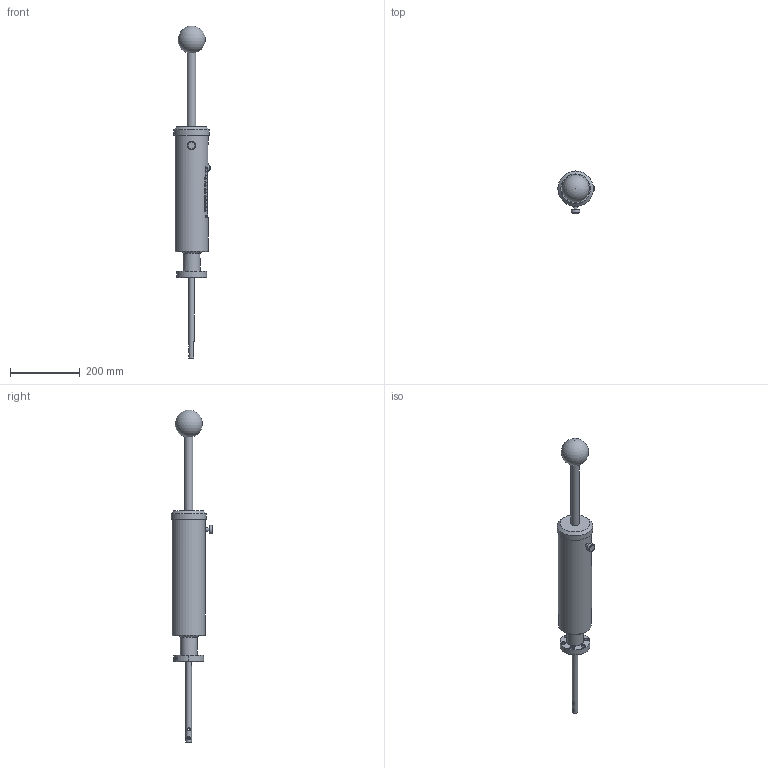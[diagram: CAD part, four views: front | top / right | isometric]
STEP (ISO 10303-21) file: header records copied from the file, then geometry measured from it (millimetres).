
FILE_DESCRIPTION(/* description */ ('Alibre Inc.'),/* implementation_level */ '2;1');
FILE_NAME(/* name */ 'export0',/* time_stamp */ '2016-03-24T13:18:55-07:00',/* author */ (''),/* organization */ (''),/* preprocessor_version */ 'ST-DEVELOPER v14',/* originating_system */ 'Alibre',/* authorisation */ '');
FILE_SCHEMA (('CONFIG_CONTROL_DESIGN'));
Length unit declared in the file: centimetre
Products named in the file (1): ID_1
Bounding box: 103.97 x 120.48 x 953.03 mm (x, y, z)
Volume: 3138709.2 mm3; surface area: 206069.7 mm2
Topology: 1 solids, 1 shells, 1870 faces, 5198 edges, 3450 vertices
Faces by surface type: plane 1060, bspline 641, cylinder 125, cone 37, torus 5, sphere 2
Full cylindrical faces by diameter (mm): 3.419 x2, 6.132 x2, 9.534 x1, 12.903 x1, 16.129 x1, 24.194 x1, 24.516 x1, 27.742 x1, 32.258 x1, 40.064 x1, 40.323 x1, 48.387 x1, 48.903 x1, 95.161 x1, 101.613 x1
Entity records: 87037 total; most frequent: CARTESIAN_POINT 45030, ORIENTED_EDGE 10306, DIRECTION 5602, EDGE_CURVE 5153, VERTEX_POINT 3434, VECTOR 2695, LINE 2695, EDGE_LOOP 2039
